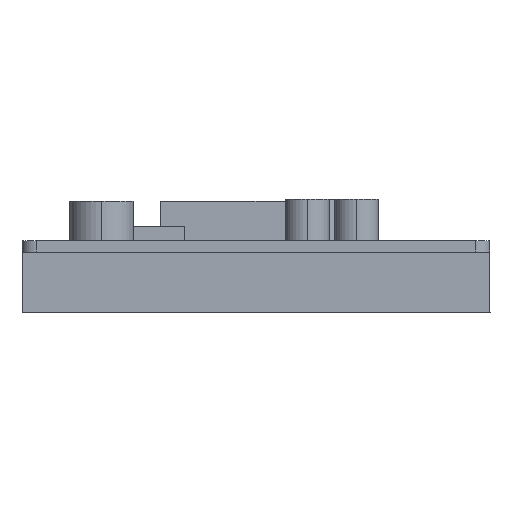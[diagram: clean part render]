
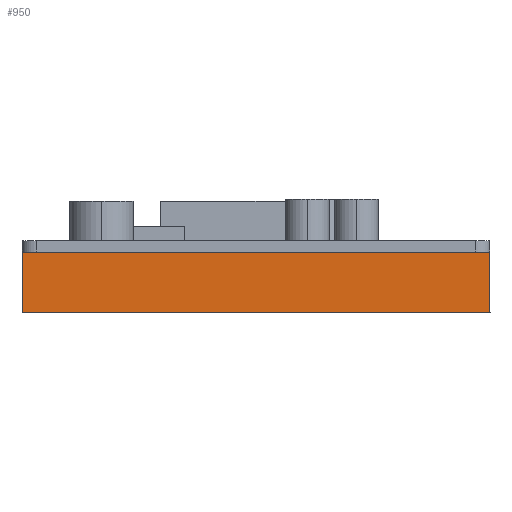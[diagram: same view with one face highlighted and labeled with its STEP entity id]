
A CAD part, left-side view. The second image highlights one B-rep face of the part: STEP entity #950.
In plain terms, the highlighted planar face has unit normal (-1, 0, 0).
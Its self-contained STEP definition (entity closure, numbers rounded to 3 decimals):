
#217=DIRECTION('',(0.,0.,-1.));
#218=VECTOR('',#217,8.5);
#219=CARTESIAN_POINT('',(-118.4,32.7,-1.6));
#220=LINE('',#219,#218);
#229=DIRECTION('',(0.,0.,-1.));
#230=VECTOR('',#229,8.5);
#231=CARTESIAN_POINT('',(-118.4,-32.7,-1.6));
#232=LINE('',#231,#230);
#241=DIRECTION('',(0.,1.,0.));
#242=VECTOR('',#241,65.4);
#243=CARTESIAN_POINT('',(-118.4,-32.7,-10.1));
#244=LINE('',#243,#242);
#315=DIRECTION('',(0.,1.,0.));
#316=VECTOR('',#315,65.4);
#317=CARTESIAN_POINT('',(-118.4,-32.7,-1.6));
#318=LINE('',#317,#316);
#621=CARTESIAN_POINT('',(-118.4,-32.7,-1.6));
#622=CARTESIAN_POINT('',(-118.4,32.7,-1.6));
#623=VERTEX_POINT('',#621);
#624=VERTEX_POINT('',#622);
#717=CARTESIAN_POINT('',(-118.4,-32.7,-10.1));
#718=VERTEX_POINT('',#717);
#719=CARTESIAN_POINT('',(-118.4,32.7,-10.1));
#720=VERTEX_POINT('',#719);
#937=CARTESIAN_POINT('',(-118.4,-32.7,-1.6));
#938=DIRECTION('',(-1.,0.,0.));
#939=DIRECTION('',(0.,1.,0.));
#940=AXIS2_PLACEMENT_3D('',#937,#938,#939);
#941=PLANE('',#940);
#942=ORIENTED_EDGE('',*,*,#887,.T.);
#944=ORIENTED_EDGE('',*,*,#943,.T.);
#945=ORIENTED_EDGE('',*,*,#920,.F.);
#947=ORIENTED_EDGE('',*,*,#946,.F.);
#948=EDGE_LOOP('',(#942,#944,#945,#947));
#949=FACE_OUTER_BOUND('',#948,.F.);
#887=EDGE_CURVE('',#623,#718,#232,.T.);
#920=EDGE_CURVE('',#624,#720,#220,.T.);
#943=EDGE_CURVE('',#718,#720,#244,.T.);
#946=EDGE_CURVE('',#623,#624,#318,.T.);
#950=ADVANCED_FACE('',(#949),#941,.T.);
